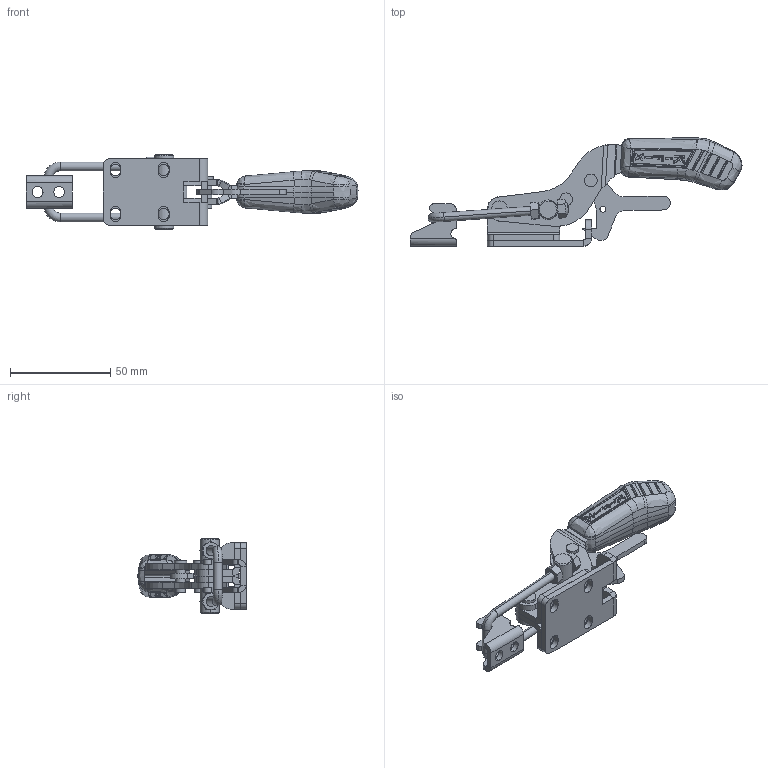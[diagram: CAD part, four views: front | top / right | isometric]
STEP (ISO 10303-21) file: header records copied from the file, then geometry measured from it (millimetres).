
FILE_DESCRIPTION (( 'STEP AP203' ), '1' );
FILE_NAME ('KF-643 DTR.STEP', '2017-10-05T12:08:00', ( 'Ricardo' ), ( '' ), 'SwSTEP 2.0', 'SolidWorks 2015', '' );
FILE_SCHEMA (( 'CONFIG_CONTROL_DESIGN' ));
Length unit declared in the file: millimetre
Products named in the file (15): 06.50001; 03.20018; KF-643 DTR; 15.10026; 11.50005; 11.50013; 02.12039_Direita; 07.60005; 02.12039_Esquerda; 06.50023; 01.10049_Direita; 02.12040; 01.10049_Esquerda; 18.10005; 16.20034
Assembly tree (17 placements, depth 2):
  KF-643 DTR
    02.12039_Direita
    02.12039_Esquerda
    01.10049_Direita
    01.10049_Esquerda
    16.20034
    03.20018
    15.10026
    11.50005  x2
    11.50013  x2
    07.60005
    06.50023
    02.12040
    18.10005
    06.50001  x2
Bounding box: 165.4 x 53.94 x 37 mm (x, y, z)
Volume: 46771.2 mm3; surface area: 33625 mm2
Topology: 17 solids, 17 shells, 1021 faces, 2589 edges, 1610 vertices
Faces by surface type: cylinder 332, plane 282, bspline 279, cone 70, sphere 50, torus 8
Entity records: 37732 total; most frequent: CARTESIAN_POINT 15373, ORIENTED_EDGE 4894, DIRECTION 3553, EDGE_CURVE 2447, VERTEX_POINT 1530, AXIS2_PLACEMENT_3D 1332, EDGE_LOOP 1031, ADVANCED_FACE 961
